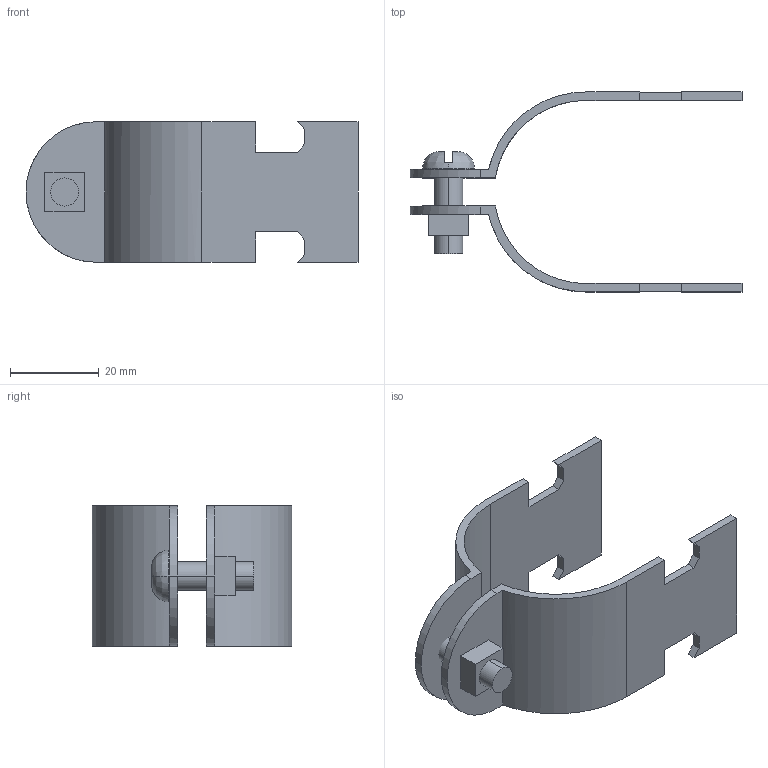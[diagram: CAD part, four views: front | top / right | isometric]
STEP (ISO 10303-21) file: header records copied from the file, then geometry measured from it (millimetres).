
FILE_DESCRIPTION(('TurboCAD Mac Pro'),'Build 980');
FILE_NAME('P2035.stp',' ',(''),(''),'ACIS Interop','IMSI','TurboCAD Mac Pro BY IMSI, INCORPORATED');
FILE_SCHEMA(('automotive_design'));
Length unit declared in the file: inch
Products named in the file (5): 1; 2; 3; 4; 5
Bounding box: 75 x 45.13 x 31.74 mm (x, y, z)
Volume: 10266.8 mm3; surface area: 11611.5 mm2
Topology: 4 solids, 4 shells, 75 faces, 194 edges, 128 vertices
Faces by surface type: plane 51, bspline 24
Entity records: 3647 total; most frequent: CARTESIAN_POINT 1154, ORIENTED_EDGE 388, DIRECTION 262, EDGE_CURVE 194, LINE 142, VECTOR 142, VERTEX_POINT 128, STYLED_ITEM 91
